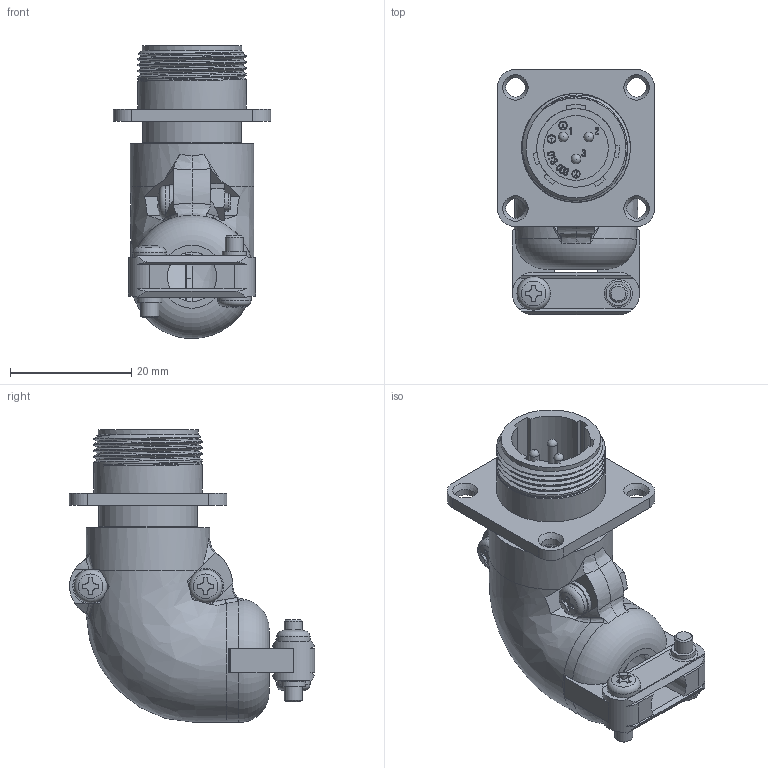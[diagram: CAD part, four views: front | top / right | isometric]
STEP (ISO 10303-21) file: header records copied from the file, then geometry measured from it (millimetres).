
FILE_DESCRIPTION (( 'STEP AP203' ), '1' );
FILE_NAME ('JMWL1303M-D.STEP', '2021-06-29T11:29:34', ( '' ), ( '' ), 'SwSTEP 2.0', 'SolidWorks 2018', '' );
FILE_SCHEMA (( 'CONFIG_CONTROL_DESIGN' ));
Length unit declared in the file: millimetre
Products named in the file (1): JMWL1303M-D
Bounding box: 26 x 40.5 x 48.4 mm (x, y, z)
Volume: 10029.8 mm3; surface area: 9602.5 mm2
Topology: 1 solids, 4 shells, 733 faces, 1985 edges, 1302 vertices
Faces by surface type: plane 350, bspline 201, cylinder 124, torus 26, cone 25, sphere 7
Full cylindrical faces by diameter (mm): 1.2 x4, 1.4 x4, 1.6 x3, 1.7 x3, 2.4 x7, 3 x8, 3.2 x4, 3.3 x2, 3.5 x2, 4 x2, 5.5 x2, 8.2 x1, 10.3 x1, 10.7 x1, 12.8 x1, 13 x1, 14.8 x1, 16.3 x1, 16.5 x1, 17.96 x4, 20.4 x1
Entity records: 32022 total; most frequent: CARTESIAN_POINT 15687, ORIENTED_EDGE 3706, DIRECTION 2668, EDGE_CURVE 1853, VERTEX_POINT 1255, VECTOR 908, LINE 908, AXIS2_PLACEMENT_3D 880
